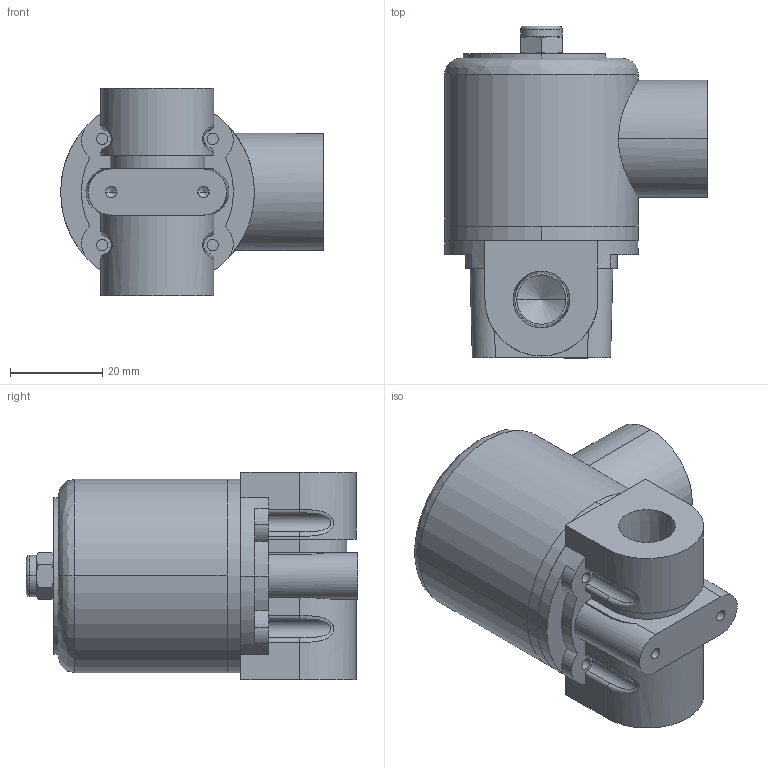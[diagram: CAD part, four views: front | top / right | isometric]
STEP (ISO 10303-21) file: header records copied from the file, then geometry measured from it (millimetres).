
FILE_DESCRIPTION (( 'STEP AP203' ), '1' );
FILE_NAME ('AS2200-02-#.STEP', '2016-02-04T06:19:51', ( 'Sam Lin' ), ( '' ), 'SwSTEP 2.0', 'SolidWorks 2013', '' );
FILE_SCHEMA (( 'CONFIG_CONTROL_DESIGN' ));
Length unit declared in the file: metre
Products named in the file (8): M6螺帽; M6螺栓; AS-AS2200-1; AS2200-02-#; AS-AS2200-2; AS2200-2; AS2200-3; mark-AS2200
Assembly tree (7 placements, depth 2):
  AS2200-02-#
    AS-AS2200-2
    AS2200-2
    AS2200-3
    mark-AS2200
    M6螺帽
    M6螺栓
    AS-AS2200-1
Bounding box: 57 x 72 x 45 mm (x, y, z)
Volume: 39535.6 mm3; surface area: 27284.8 mm2
Topology: 13 solids, 13 shells, 283 faces, 718 edges, 461 vertices
Faces by surface type: cylinder 119, plane 114, cone 30, bspline 20
Entity records: 13753 total; most frequent: CARTESIAN_POINT 6236, ORIENTED_EDGE 1420, DIRECTION 1341, EDGE_CURVE 710, AXIS2_PLACEMENT_3D 487, VERTEX_POINT 461, LINE 367, VECTOR 367
